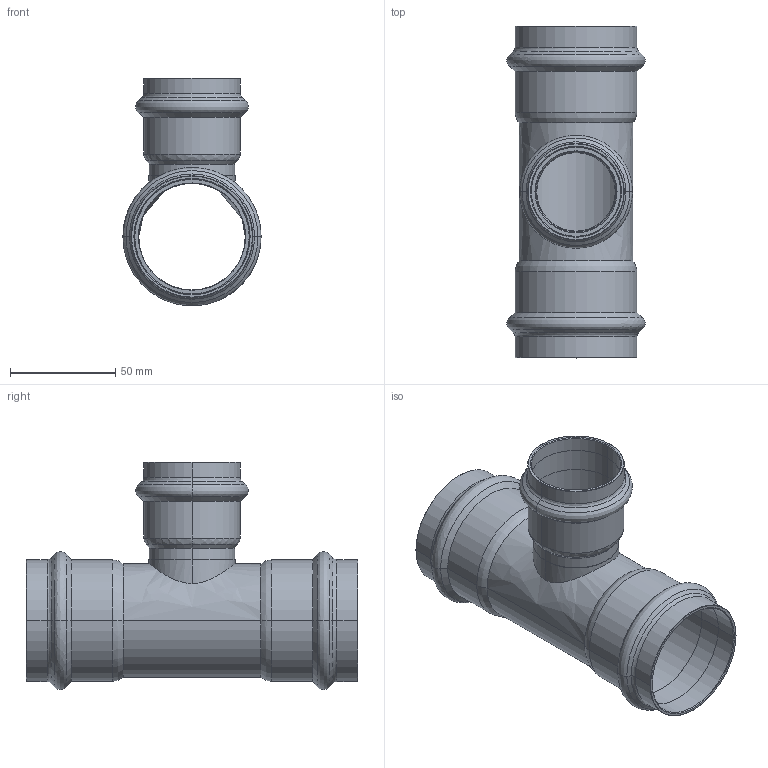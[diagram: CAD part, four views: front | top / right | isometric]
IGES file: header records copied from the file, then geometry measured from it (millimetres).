
Start section: Elysium IGES Interface
Global section: file name: C:\Users\Wallenburg\Desktop\3d modellen sudo\S-Pr VP\SP6130RV\6130RVW544254.igs; native system: CoCreate Modeling 17.00A  17-Jun-2010; preprocessor: CoCreate IGES_3D V2.2; author: Unknown; organization: Unknown; date: 20130117.152611; units: millimetre
Bounding box: 65.68 x 157.73 x 108.07 mm (x, y, z)
Volume: 70763.3 mm3; surface area: 70444.5 mm2
Topology: 1 solids, 1 shells, 128 faces, 262 edges, 142 vertices
Faces by surface type: bspline 128
